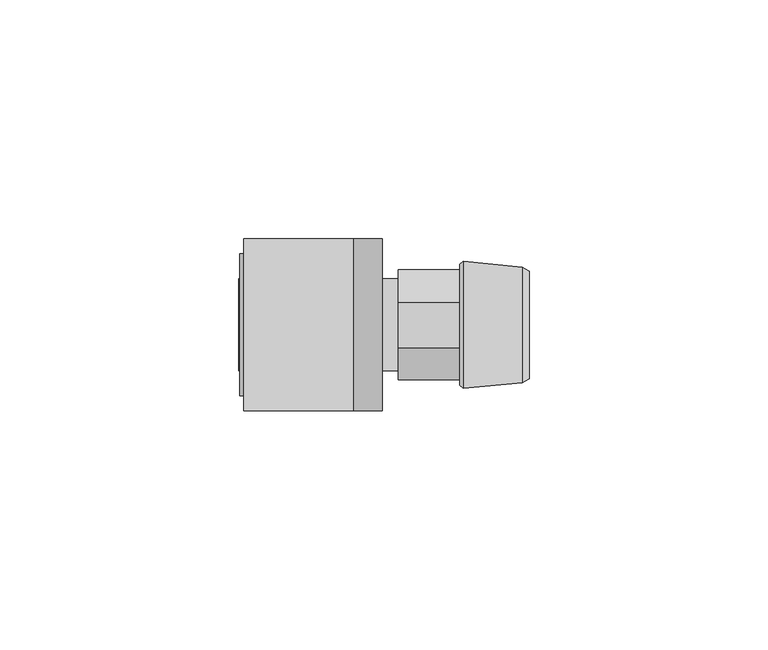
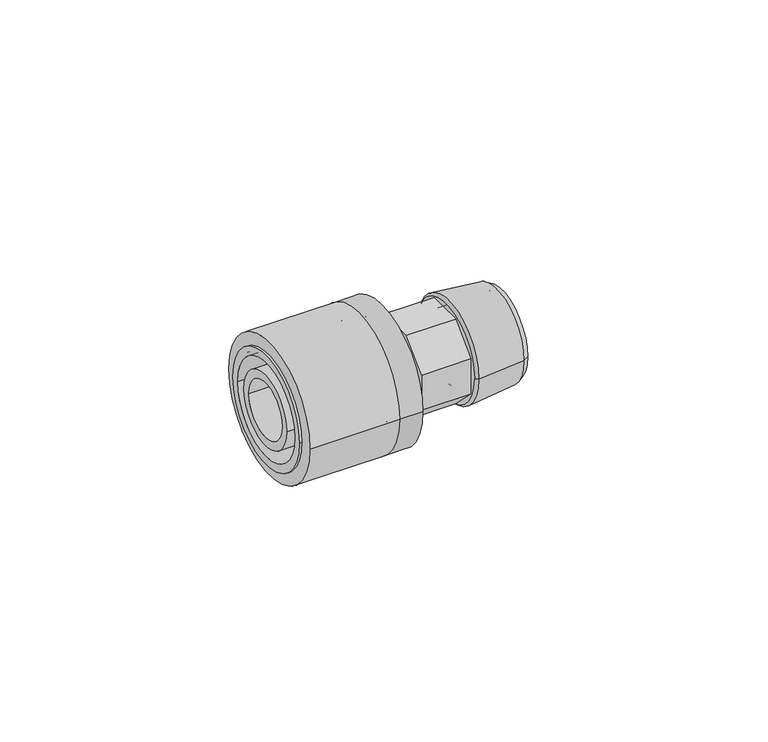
"""IFC4 building model written with IfcOpenShell, lengths in millimetres: pipe fitting geometry, FASTLOC_Adapter_RX+, with external thread : FSL A C external EX+ AT."""

from ifc_helpers import new_model, si_unit, point, frame, origin, origin_2d, place, context, project, spatial, polyline, circle_curve, trimmed, segment, composite_curve, outline, extrude, source, transform, mapped, element, save
from ifc_brep_helpers import plane_surface, cylinder_surface, revolved_surface, advanced_brep


def pipe_fitting_a2ce5f58(model_context):
    return source(origin(), model_context, "Body", "SolidModel", [
        extrude(outline(composite_curve([segment(trimmed(circle_curve(origin_2d(), 18.0), [point((18.0, 0.0))], [point((-18.0, 0.0))], False, "CARTESIAN"), True, "CONTINUOUS"), segment(trimmed(circle_curve(origin_2d(), 18.0), [point((-18.0, 0.0))], [point((18.0, 0.0))], False, "CARTESIAN"), True, "CONTINUOUS")], self_intersect=False), holes=[composite_curve([segment(trimmed(circle_curve(origin_2d(), 13.5), [point((13.5, 0.0))], [point((-13.5, 0.0))], True, "CARTESIAN"), True, "CONTINUOUS"), segment(trimmed(circle_curve(origin_2d(), 13.5), [point((-13.5, 0.0))], [point((13.5, 0.0))], True, "CARTESIAN"), True, "CONTINUOUS")], self_intersect=False)]), frame((-32.4, 0.0, 0.0), z_axis=(1.0, 0.0, 0.0), x_axis=(0.0, 1.0, 0.0)), (0.0, 0.0, 1.0), 23.0),
        advanced_brep(
        [(-9.4, -18.0, 0.0), (-9.4, 18.0, 0.0), (-3.4, 18.0, 0.0), (-3.4, -18.0, 0.0), (-33.2, -14.85, 0.0), (-33.2, 14.85, 0.0), (-9.4, 14.85, 0.0), (-9.4, -14.85, 0.0), (-3.4, -12.65, 0.0), (-3.4, 12.65, 0.0), (-33.2, 12.65, 0.0), (-33.2, -12.65, 0.0)],
        [
            (0, 1, circle_curve(frame((-9.4, 0.0, 0.0), z_axis=(1.0, 0.0, 0.0), x_axis=(0.0, 1.0, 0.0)), 18.0)),
            (1, 2),
            (2, 3, circle_curve(frame((-3.4, 0.0, 0.0), z_axis=(-1.0, 0.0, 0.0), x_axis=(0.0, 1.0, 0.0)), 18.0)),
            (3, 0),
            (4, 5, circle_curve(frame((-33.2, 0.0, 0.0), z_axis=(1.0, 0.0, 0.0), x_axis=(0.0, 1.0, 0.0)), 14.85)),
            (5, 6),
            (6, 7, circle_curve(frame((-9.4, 0.0, 0.0), z_axis=(-1.0, 0.0, 0.0), x_axis=(0.0, 1.0, 0.0)), 14.85)),
            (7, 4),
            (8, 9, circle_curve(frame((-3.4, 0.0, 0.0), z_axis=(1.0, 0.0, 0.0), x_axis=(0.0, 1.0, 0.0)), 12.65)),
            (9, 10),
            (10, 11, circle_curve(frame((-33.2, 0.0, 0.0), z_axis=(-1.0, 0.0, 0.0), x_axis=(0.0, 1.0, 0.0)), 12.65)),
            (11, 8),
            (1, 0, circle_curve(frame((-9.4, 0.0, 0.0), z_axis=(1.0, 0.0, 0.0), x_axis=(0.0, -1.0, 0.0)), 18.0)),
            (3, 2, circle_curve(frame((-3.4, 0.0, 0.0), z_axis=(-1.0, 0.0, 0.0), x_axis=(0.0, -1.0, 0.0)), 18.0)),
            (6, 7, circle_curve(frame((-9.4, 0.0, 0.0), z_axis=(1.0, 0.0, 0.0), x_axis=(0.0, -1.0, 0.0)), 14.85)),
            (5, 4, circle_curve(frame((-33.2, 0.0, 0.0), z_axis=(1.0, 0.0, 0.0), x_axis=(0.0, -1.0, 0.0)), 14.85)),
            (10, 11, circle_curve(frame((-33.2, 0.0, 0.0), z_axis=(1.0, 0.0, 0.0), x_axis=(0.0, -1.0, 0.0)), 12.65)),
            (9, 8, circle_curve(frame((-3.4, 0.0, 0.0), z_axis=(1.0, 0.0, 0.0), x_axis=(0.0, -1.0, 0.0)), 12.65)),
        ],
        [
            cylinder_surface(frame((-3.4, 0.0, 0.0), z_axis=(-1.0, 0.0, 0.0), x_axis=(0.0, 1.0, 0.0)), 18.0),
            cylinder_surface(frame((-3.4, 0.0, 0.0), z_axis=(-1.0, 0.0, 0.0), x_axis=(0.0, 1.0, 0.0)), 14.85),
            revolved_surface(polyline([(-33.2, 12.65, 0.0), (-3.4, 12.65, 0.0)]), (-3.4, 0.0, 0.0), (-1.0, 0.0, 0.0)),
            cylinder_surface(frame((-3.4, 0.0, 0.0), z_axis=(-1.0, 0.0, 0.0), x_axis=(0.0, -1.0, 0.0)), 18.0),
            plane_surface(frame((-9.4, 0.0, 0.0), z_axis=(-1.0, 0.0, 0.0), x_axis=(0.0, -1.0, 0.0))),
            cylinder_surface(frame((-3.4, 0.0, 0.0), z_axis=(-1.0, 0.0, 0.0), x_axis=(0.0, -1.0, 0.0)), 14.85),
            plane_surface(frame((-33.2, 0.0, 0.0), z_axis=(-1.0, 0.0, 0.0), x_axis=(0.0, -1.0, 0.0))),
            revolved_surface(polyline([(-33.2, -12.65, 0.0), (-3.4, -12.65, 0.0)]), (-3.4, 0.0, 0.0), (-1.0, 0.0, 0.0)),
            plane_surface(frame((-3.4, 0.0, 0.0), z_axis=(1.0, 0.0, 0.0), x_axis=(0.0, -1.0, 0.0))),
        ],
        [
            (0, [[1, 2, 3, 4]]),
            (1, [[5, 6, 7, 8]]),
            (2, [[9, 10, 11, 12]]),
            (3, [[13, -4, 14, -2]]),
            (4, [[-13, -1], [15, -7]]),
            (5, [[16, -8, -15, -6]]),
            (6, [[-16, -5], [17, -11]]),
            (7, [[18, -12, -17, -10]]),
            (8, [[-14, -3], [-18, -9]]),
        ],
    ),
        advanced_brep(
        [(14.0032803, 9.5, 0.0), (14.0032803, -9.5, 0.0), (27.4, -9.5, 0.0), (27.4, 9.5, 0.0), (12.9, 8.3967197, 0.0), (12.9, -8.3967197, 0.0), (13.6406902, 13.3, 0.0), (13.6406902, -13.3, 0.0), (12.9, -12.7, 0.0), (12.9, 12.7, 0.0), (25.9000007, 12.1, 0.0), (25.9000007, -12.1, 0.0), (27.4, 11.25, 0.0), (27.4, -11.25, 0.0)],
        [
            (0, 1, circle_curve(frame((14.0032803, 0.0, 0.0), z_axis=(-1.0, 0.0, 0.0), x_axis=(0.0, -1.0, 0.0)), 9.5)),
            (1, 2),
            (2, 3, circle_curve(frame((27.4, 0.0, 0.0), z_axis=(1.0, 0.0, 0.0), x_axis=(0.0, -1.0, 0.0)), 9.5)),
            (3, 0),
            (4, 5, circle_curve(frame((12.9, 0.0, 0.0), z_axis=(-1.0, 0.0, 0.0), x_axis=(0.0, -1.0, 0.0)), 8.3967197)),
            (5, 1),
            (0, 4),
            (6, 7, circle_curve(frame((13.6406902, 0.0, 0.0), z_axis=(-1.0, 0.0, 0.0), x_axis=(0.0, -1.0, 0.0)), 13.3)),
            (7, 8),
            (8, 9, circle_curve(frame((12.9, 0.0, 0.0), z_axis=(1.0, 0.0, 0.0), x_axis=(0.0, -1.0, 0.0)), 12.7)),
            (9, 6),
            (10, 11, circle_curve(frame((25.9000007, 0.0, 0.0), z_axis=(-1.0, 0.0, 0.0), x_axis=(0.0, -1.0, 0.0)), 12.1)),
            (11, 7),
            (6, 10),
            (12, 13, circle_curve(frame((27.4, 0.0, 0.0), z_axis=(-1.0, 0.0, 0.0), x_axis=(0.0, -1.0, 0.0)), 11.25)),
            (13, 11),
            (10, 12),
            (1, 0, circle_curve(frame((14.0032803, 0.0, 0.0), z_axis=(-1.0, 0.0, 0.0), x_axis=(0.0, 1.0, 0.0)), 9.5)),
            (3, 2, circle_curve(frame((27.4, 0.0, 0.0), z_axis=(1.0, 0.0, 0.0), x_axis=(0.0, 1.0, 0.0)), 9.5)),
            (5, 4, circle_curve(frame((12.9, 0.0, 0.0), z_axis=(-1.0, 0.0, 0.0), x_axis=(0.0, 1.0, 0.0)), 8.3967197)),
            (8, 9, circle_curve(frame((12.9, 0.0, 0.0), z_axis=(-1.0, 0.0, 0.0), x_axis=(0.0, 1.0, 0.0)), 12.7)),
            (7, 6, circle_curve(frame((13.6406902, 0.0, 0.0), z_axis=(-1.0, 0.0, 0.0), x_axis=(0.0, 1.0, 0.0)), 13.3)),
            (11, 10, circle_curve(frame((25.9000007, 0.0, 0.0), z_axis=(-1.0, 0.0, 0.0), x_axis=(0.0, 1.0, 0.0)), 12.1)),
            (13, 12, circle_curve(frame((27.4, 0.0, 0.0), z_axis=(-1.0, 0.0, 0.0), x_axis=(0.0, 1.0, 0.0)), 11.25)),
        ],
        [
            revolved_surface(polyline([(27.4, -9.5, 0.0), (14.0032803, -9.5, 0.0)]), (0.0, 0.0, 0.0), (1.0, 0.0, 0.0)),
            revolved_surface(polyline([(14.0032803, -9.5, 0.0), (12.9, -8.3967197, 0.0)]), (0.0, 0.0, 0.0), (1.0, 0.0, 0.0)),
            revolved_surface(polyline([(12.9, -12.7, 0.0), (13.6406902, -13.3, 0.0)]), (0.0, 0.0, 0.0), (1.0, 0.0, 0.0)),
            revolved_surface(polyline([(13.6406902, -13.3, 0.0), (25.9000007, -12.1, 0.0)]), (0.0, 0.0, 0.0), (1.0, 0.0, 0.0)),
            revolved_surface(polyline([(25.9000007, -12.1, 0.0), (27.4, -11.25, 0.0)]), (0.0, 0.0, 0.0), (1.0, 0.0, 0.0)),
            revolved_surface(polyline([(27.4, 9.5, 0.0), (14.0032803, 9.5, 0.0)]), (0.0, 0.0, 0.0), (1.0, 0.0, 0.0)),
            revolved_surface(polyline([(14.0032803, 9.5, 0.0), (12.9, 8.3967197, 0.0)]), (0.0, 0.0, 0.0), (1.0, 0.0, 0.0)),
            plane_surface(frame((12.9, 0.0, 0.0), z_axis=(-1.0, 0.0, 0.0), x_axis=(0.0, 1.0, 0.0))),
            revolved_surface(polyline([(12.9, 12.7, 0.0), (13.6406902, 13.3, 0.0)]), (0.0, 0.0, 0.0), (1.0, 0.0, 0.0)),
            revolved_surface(polyline([(13.6406902, 13.3, 0.0), (25.9000007, 12.1, 0.0)]), (0.0, 0.0, 0.0), (1.0, 0.0, 0.0)),
            revolved_surface(polyline([(25.9000007, 12.1, 0.0), (27.4, 11.25, 0.0)]), (0.0, 0.0, 0.0), (1.0, 0.0, 0.0)),
            plane_surface(frame((27.4, 0.0, 0.0), z_axis=(1.0, 0.0, 0.0), x_axis=(0.0, 1.0, 0.0))),
        ],
        [
            (0, [[1, 2, 3, 4]]),
            (1, [[5, 6, -1, 7]]),
            (2, [[8, 9, 10, 11]]),
            (3, [[12, 13, -8, 14]]),
            (4, [[15, 16, -12, 17]]),
            (5, [[18, -4, 19, -2]]),
            (6, [[20, -7, -18, -6]]),
            (7, [[21, -10], [-20, -5]]),
            (8, [[22, -11, -21, -9]]),
            (9, [[23, -14, -22, -13]]),
            (10, [[24, -17, -23, -16]]),
            (11, [[-24, -15], [-19, -3]]),
        ],
    ),
        extrude(outline(polyline([(-11.5, 4.763456), (-4.763456, 11.5), (4.763456, 11.5), (11.5, 4.763456), (11.5, -4.763456), (4.763456, -11.5), (-4.763456, -11.5), (-11.5, -4.763456), (-11.5, 4.763456)])), frame((0.0, 0.0, 0.0), z_axis=(1.0, 0.0, 0.0), x_axis=(0.0, 1.0, 0.0)), (0.0, 0.0, 1.0), 12.9),
        advanced_brep(
        [(-33.4, 7.35, 0.0), (-33.4, -7.35, 0.0), (0.0, -7.35, 0.0), (0.0, 7.35, 0.0), (0.0, 9.6, 0.0), (0.0, -9.6, 0.0), (-6.6, -9.6, 0.0), (-6.6, 9.6, 0.0), (-6.6, 11.1, 0.0), (-6.6, -11.1, 0.0), (-9.4, -11.1, 0.0), (-9.4, 11.1, 0.0), (-9.4, 9.6, 0.0), (-9.4, -9.6, 0.0), (-33.4, -9.6, 0.0), (-33.4, 9.6, 0.0)],
        [
            (0, 1, circle_curve(frame((-33.4, 0.0, 0.0), z_axis=(-1.0, 0.0, 0.0), x_axis=(0.0, -1.0, 0.0)), 7.35)),
            (1, 2),
            (2, 3, circle_curve(frame((0.0, 0.0, 0.0), z_axis=(1.0, 0.0, 0.0), x_axis=(0.0, -1.0, 0.0)), 7.35)),
            (3, 0),
            (4, 5, circle_curve(frame((0.0, 0.0, 0.0), z_axis=(-1.0, 0.0, 0.0), x_axis=(0.0, -1.0, 0.0)), 9.6)),
            (5, 6),
            (6, 7, circle_curve(frame((-6.6, 0.0, 0.0), z_axis=(1.0, 0.0, 0.0), x_axis=(0.0, -1.0, 0.0)), 9.6)),
            (7, 4),
            (8, 9, circle_curve(frame((-6.6, 0.0, 0.0), z_axis=(-1.0, 0.0, 0.0), x_axis=(0.0, -1.0, 0.0)), 11.1)),
            (9, 10),
            (10, 11, circle_curve(frame((-9.4, 0.0, 0.0), z_axis=(1.0, 0.0, 0.0), x_axis=(0.0, -1.0, 0.0)), 11.1)),
            (11, 8),
            (12, 13, circle_curve(frame((-9.4, 0.0, 0.0), z_axis=(-1.0, 0.0, 0.0), x_axis=(0.0, -1.0, 0.0)), 9.6)),
            (13, 14),
            (14, 15, circle_curve(frame((-33.4, 0.0, 0.0), z_axis=(1.0, 0.0, 0.0), x_axis=(0.0, -1.0, 0.0)), 9.6)),
            (15, 12),
            (1, 0, circle_curve(frame((-33.4, 0.0, 0.0), z_axis=(-1.0, 0.0, 0.0), x_axis=(0.0, 1.0, 0.0)), 7.35)),
            (3, 2, circle_curve(frame((0.0, 0.0, 0.0), z_axis=(1.0, 0.0, 0.0), x_axis=(0.0, 1.0, 0.0)), 7.35)),
            (4, 5, circle_curve(frame((0.0, 0.0, 0.0), z_axis=(1.0, 0.0, 0.0), x_axis=(0.0, 1.0, 0.0)), 9.6)),
            (7, 6, circle_curve(frame((-6.6, 0.0, 0.0), z_axis=(1.0, 0.0, 0.0), x_axis=(0.0, 1.0, 0.0)), 9.6)),
            (8, 9, circle_curve(frame((-6.6, 0.0, 0.0), z_axis=(1.0, 0.0, 0.0), x_axis=(0.0, 1.0, 0.0)), 11.1)),
            (11, 10, circle_curve(frame((-9.4, 0.0, 0.0), z_axis=(1.0, 0.0, 0.0), x_axis=(0.0, 1.0, 0.0)), 11.1)),
            (12, 13, circle_curve(frame((-9.4, 0.0, 0.0), z_axis=(1.0, 0.0, 0.0), x_axis=(0.0, 1.0, 0.0)), 9.6)),
            (15, 14, circle_curve(frame((-33.4, 0.0, 0.0), z_axis=(1.0, 0.0, 0.0), x_axis=(0.0, 1.0, 0.0)), 9.6)),
        ],
        [
            revolved_surface(polyline([(0.0, -7.35, 0.0), (-33.4, -7.35, 0.0)]), (0.0, 0.0, 0.0), (1.0, 0.0, 0.0)),
            cylinder_surface(frame((0.0, 0.0, 0.0), z_axis=(1.0, 0.0, 0.0), x_axis=(0.0, -1.0, 0.0)), 9.6),
            cylinder_surface(frame((0.0, 0.0, 0.0), z_axis=(1.0, 0.0, 0.0), x_axis=(0.0, -1.0, 0.0)), 11.1),
            revolved_surface(polyline([(0.0, 7.35, 0.0), (-33.4, 7.35, 0.0)]), (0.0, 0.0, 0.0), (1.0, 0.0, 0.0)),
            plane_surface(frame((0.0, 0.0, 0.0), z_axis=(1.0, 0.0, 0.0), x_axis=(0.0, 1.0, 0.0))),
            cylinder_surface(frame((0.0, 0.0, 0.0), z_axis=(1.0, 0.0, 0.0), x_axis=(0.0, 1.0, 0.0)), 9.6),
            plane_surface(frame((-6.6, 0.0, 0.0), z_axis=(1.0, 0.0, 0.0), x_axis=(0.0, 1.0, 0.0))),
            cylinder_surface(frame((0.0, 0.0, 0.0), z_axis=(1.0, 0.0, 0.0), x_axis=(0.0, 1.0, 0.0)), 11.1),
            plane_surface(frame((-9.4, 0.0, 0.0), z_axis=(-1.0, 0.0, 0.0), x_axis=(0.0, 1.0, 0.0))),
            plane_surface(frame((-33.4, 0.0, 0.0), z_axis=(-1.0, 0.0, 0.0), x_axis=(0.0, 1.0, 0.0))),
        ],
        [
            (0, [[1, 2, 3, 4]]),
            (1, [[5, 6, 7, 8]]),
            (2, [[9, 10, 11, 12]]),
            (1, [[13, 14, 15, 16]]),
            (3, [[17, -4, 18, -2]]),
            (4, [[19, -5], [-18, -3]]),
            (5, [[-19, -8, 20, -6]]),
            (6, [[21, -9], [-20, -7]]),
            (7, [[-21, -12, 22, -10]]),
            (8, [[-22, -11], [23, -13]]),
            (5, [[-23, -16, 24, -14]]),
            (9, [[-24, -15], [-17, -1]]),
        ],
    ),
    ])


if __name__ == "__main__":
    model = new_model("IFC4")
    model_context = context("Model", 3, world=origin())
    ifc_project = project(units=[si_unit("LENGTHUNIT", "METRE", prefix="MILLI")], contexts=[model_context])
    site = spatial("IfcSite", under=ifc_project)
    building = spatial("IfcBuilding", under=site)
    placement = place(None, origin())
    pipe_fitting_shape = pipe_fitting_a2ce5f58(model_context)
    element("IfcPipeFitting", 1, ObjectType="FASTLOC_Adapter_RX+, with external thread : FSL A C external EX+ AT", at=placement, inside=building, context=model_context, shape_type="MappedRepresentation", body=[
        mapped(pipe_fitting_shape, transform((0.0, 0.0, 0.0), x_axis=(1.0, 0.0, 0.0), y_axis=(0.0, 1.0, 0.0), z_axis=(0.0, 0.0, 1.0))),
    ])
    save(model, "model.ifc")
